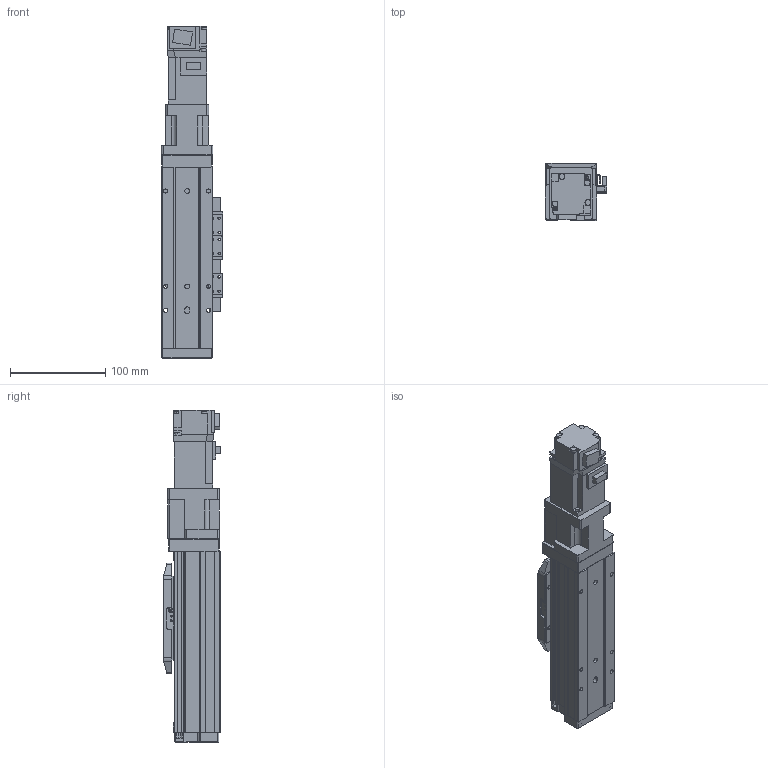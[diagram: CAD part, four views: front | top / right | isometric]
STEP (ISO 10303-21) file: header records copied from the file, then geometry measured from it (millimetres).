
FILE_DESCRIPTION (( 'STEP AP214' ), '1' );
FILE_NAME ('N_GRH5-50-BC-M10.step', '2025-03-14T09:33:37', ( '' ), ( '' ), 'SwSTEP 2.0', 'SolidWorks 2016', '' );
FILE_SCHEMA (( 'AUTOMOTIVE_DESIGN' ));
Length unit declared in the file: millimetre
Products named in the file (5): N_GRH5-BC-008^N_GRH5-50-BC-M10; HF-KP13_100W_Motor^N_GRH5-50-BC-M10; N_GRH5-GY-011^N_GRH5-50-BC-M10; N_GRH5-50-BC-M10; N_GRH5-GY-004^N_GRH5-50-BC-M10
Assembly tree (4 placements, depth 2):
  N_GRH5-50-BC-M10
    N_GRH5-GY-011^N_GRH5-50-BC-M10
    N_GRH5-GY-004^N_GRH5-50-BC-M10
    N_GRH5-BC-008^N_GRH5-50-BC-M10
    HF-KP13_100W_Motor^N_GRH5-50-BC-M10
Bounding box: 64.05 x 60.7 x 347.9 mm (x, y, z)
Volume: 700120 mm3; surface area: 176200.8 mm2
Topology: 4 solids, 5 shells, 894 faces, 2324 edges, 1475 vertices
Faces by surface type: plane 546, cylinder 288, cone 58, sphere 2
Entity records: 33536 total; most frequent: CARTESIAN_POINT 4736, DIRECTION 4691, ORIENTED_EDGE 4576, EDGE_CURVE 2288, VECTOR 1651, LINE 1651, AXIS2_PLACEMENT_3D 1520, VERTEX_POINT 1473
